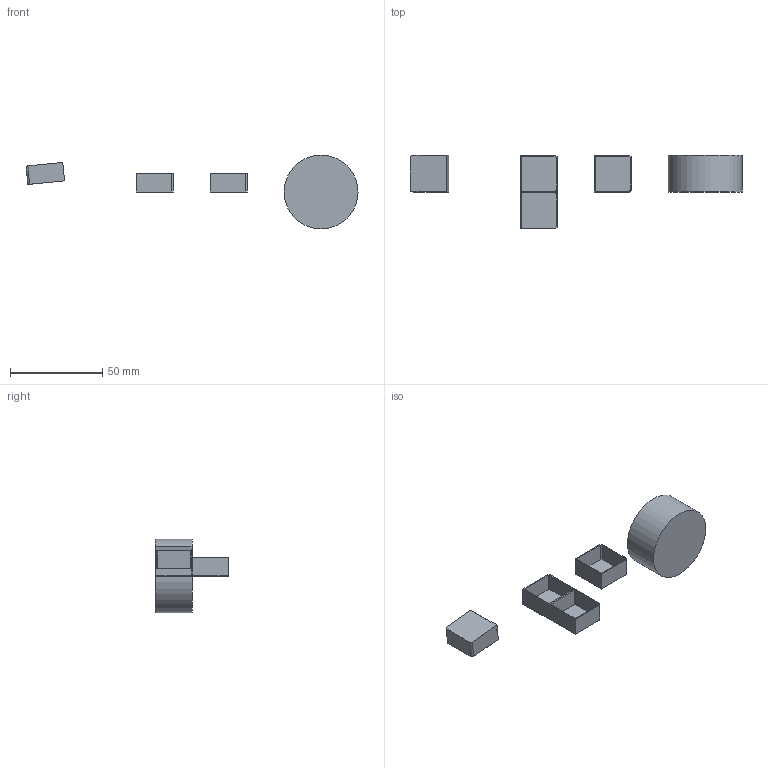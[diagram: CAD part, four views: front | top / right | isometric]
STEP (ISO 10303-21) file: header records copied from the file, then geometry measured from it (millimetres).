
FILE_DESCRIPTION(('Open CASCADE Model'),'2;1');
FILE_NAME('Open CASCADE Shape Model','2026-10-08T19:42:07',('Author'),( 'Open CASCADE'),'Open CASCADE STEP processor 8.0','Open CASCADE 8.0' ,'Unknown');
FILE_SCHEMA(('AUTOMOTIVE_DESIGN { 1 0 10303 214 1 1 1 1 }'));
Length unit declared in the file: millimetre
Products named in the file (4): Open CASCADE STEP translator 8.0 1; Open CASCADE STEP translator 8.0 2; Open CASCADE STEP translator 8.0 3; Open CASCADE STEP translator 8.0 4
Bounding box: 179.7 x 40 x 40 mm (x, y, z)
Volume: 27397.7 mm3; surface area: 13864.3 mm2
Topology: 4 solids, 4 shells, 58 faces, 138 edges, 92 vertices
Faces by surface type: plane 49, cylinder 9
Full cylindrical faces by diameter (mm): 40 x1
Entity records: 3516 total; most frequent: CARTESIAN_POINT 645, DIRECTION 530, LINE 370, VECTOR 370, ORIENTED_EDGE 276, PCURVE 276, DEFINITIONAL_REPRESENTATION 276, EDGE_CURVE 138
